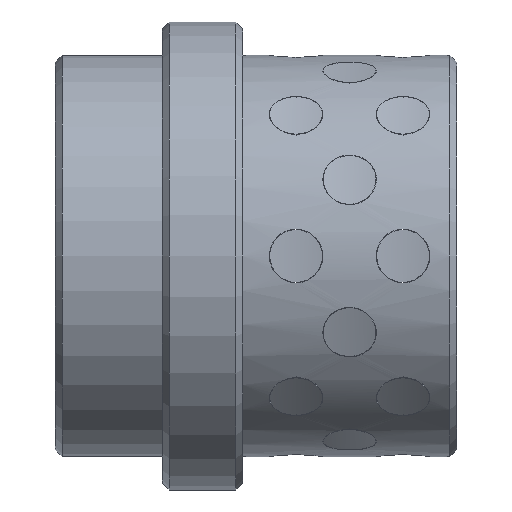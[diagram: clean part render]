
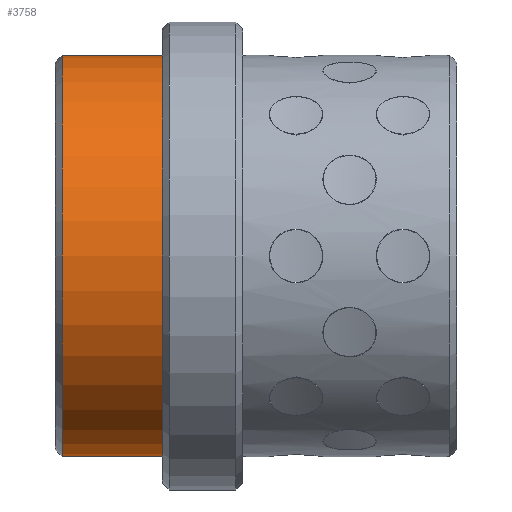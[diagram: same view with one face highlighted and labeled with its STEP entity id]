
A CAD part, front view. The second image highlights one B-rep face of the part: STEP entity #3758.
In plain terms, the highlighted cylindrical face has radius 15 mm (diameter 30 mm), a partial arc.
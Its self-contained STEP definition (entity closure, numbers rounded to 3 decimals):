
#2332=CARTESIAN_POINT('',(0.,0.,0.));
#2333=DIRECTION('',(1.,0.,0.));
#2334=DIRECTION('',(0.,0.,1.));
#2335=AXIS2_PLACEMENT_3D('',#2332,#2333,#2334);
#2352=CARTESIAN_POINT('',(-7.5,0.,0.));
#2353=DIRECTION('',(1.,0.,0.));
#2354=DIRECTION('',(0.,0.,1.));
#2355=AXIS2_PLACEMENT_3D('',#2352,#2353,#2354);
#2370=DIRECTION('',(1.,0.,0.));
#2371=VECTOR('',#2370,7.5);
#2372=CARTESIAN_POINT('',(-7.5,0.,
-15.));
#2373=LINE('',#2372,#2371);
#2374=DIRECTION('',(1.,0.,0.));
#2375=VECTOR('',#2374,7.5);
#2376=CARTESIAN_POINT('',(-7.5,0.,
15.));
#2377=LINE('',#2376,#2375);
#2574=CARTESIAN_POINT('',(0.,0.,15.));
#2575=CARTESIAN_POINT('',(0.,0.,-15.));
#2576=VERTEX_POINT('',#2574);
#2577=VERTEX_POINT('',#2575);
#2582=CARTESIAN_POINT('',(-7.5,0.,-15.));
#2583=CARTESIAN_POINT('',(-7.5,0.,15.));
#2584=VERTEX_POINT('',#2582);
#2585=VERTEX_POINT('',#2583);
#3744=CARTESIAN_POINT('',(-9.5,0.,0.));
#3745=DIRECTION('',(1.,0.,0.));
#3746=DIRECTION('',(0.,0.,1.));
#3747=AXIS2_PLACEMENT_3D('',#3744,#3745,#3746);
#3748=CYLINDRICAL_SURFACE('',#3747,15.);
#3750=ORIENTED_EDGE('',*,*,#3749,.F.);
#3752=ORIENTED_EDGE('',*,*,#3751,.T.);
#3753=ORIENTED_EDGE('',*,*,#3737,.T.);
#3755=ORIENTED_EDGE('',*,*,#3754,.F.);
#3756=EDGE_LOOP('',(#3750,#3752,#3753,#3755));
#3757=FACE_OUTER_BOUND('',#3756,.F.);
#3758=ADVANCED_FACE('',(#3757),#3748,.T.);
#2336=CIRCLE('',#2335,15.);
#2356=CIRCLE('',#2355,15.);
#3737=EDGE_CURVE('',#2576,#2577,#2336,.T.);
#3749=EDGE_CURVE('',#2585,#2584,#2356,.T.);
#3751=EDGE_CURVE('',#2585,#2576,#2377,.T.);
#3754=EDGE_CURVE('',#2584,#2577,#2373,.T.);
